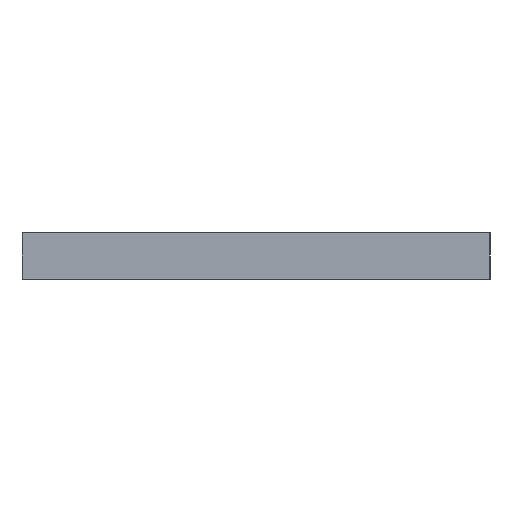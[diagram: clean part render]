
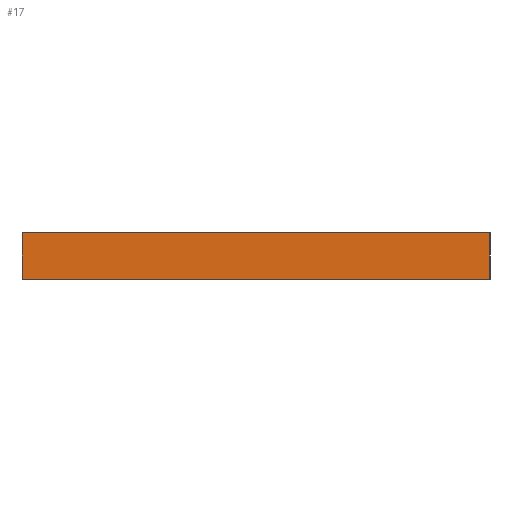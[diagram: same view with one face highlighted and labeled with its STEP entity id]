
A CAD part, left-side view. The second image highlights one B-rep face of the part: STEP entity #17.
In plain terms, the highlighted planar face has unit normal (-1, 0, 0).
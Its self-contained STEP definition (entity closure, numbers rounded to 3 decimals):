
#17 = ADVANCED_FACE('',(#18),#32,.F.);
#18 = FACE_BOUND('',#19,.F.);
#19 = EDGE_LOOP('',(#20,#55,#83,#111));
#20 = ORIENTED_EDGE('',*,*,#21,.F.);
#21 = EDGE_CURVE('',#22,#24,#26,.T.);
#22 = VERTEX_POINT('',#23);
#23 = CARTESIAN_POINT('',(-90.,-60.,36.));
#24 = VERTEX_POINT('',#25);
#25 = CARTESIAN_POINT('',(-90.,-60.,48.));
#26 = SURFACE_CURVE('',#27,(#31,#43),.PCURVE_S1.);
#27 = LINE('',#28,#29);
#28 = CARTESIAN_POINT('',(-90.,-60.,36.));
#29 = VECTOR('',#30,1.);
#30 = DIRECTION('',(0.,0.,1.));
#31 = PCURVE('',#32,#37);
#32 = PLANE('',#33);
#33 = AXIS2_PLACEMENT_3D('',#34,#35,#36);
#34 = CARTESIAN_POINT('',(-90.,-60.,36.));
#35 = DIRECTION('',(1.,0.,0.));
#36 = DIRECTION('',(0.,0.,1.));
#37 = DEFINITIONAL_REPRESENTATION('',(#38),#42);
#38 = LINE('',#39,#40);
#39 = CARTESIAN_POINT('',(0.,0.));
#40 = VECTOR('',#41,1.);
#41 = DIRECTION('',(1.,0.));
#42 = ( GEOMETRIC_REPRESENTATION_CONTEXT(2) 
PARAMETRIC_REPRESENTATION_CONTEXT() REPRESENTATION_CONTEXT('2D SPACE',''
  ) );
#43 = PCURVE('',#44,#49);
#44 = PLANE('',#45);
#45 = AXIS2_PLACEMENT_3D('',#46,#47,#48);
#46 = CARTESIAN_POINT('',(-90.,-60.,36.));
#47 = DIRECTION('',(0.,1.,0.));
#48 = DIRECTION('',(0.,0.,1.));
#49 = DEFINITIONAL_REPRESENTATION('',(#50),#54);
#50 = LINE('',#51,#52);
#51 = CARTESIAN_POINT('',(0.,0.));
#52 = VECTOR('',#53,1.);
#53 = DIRECTION('',(1.,0.));
#54 = ( GEOMETRIC_REPRESENTATION_CONTEXT(2) 
PARAMETRIC_REPRESENTATION_CONTEXT() REPRESENTATION_CONTEXT('2D SPACE',''
  ) );
#55 = ORIENTED_EDGE('',*,*,#56,.T.);
#56 = EDGE_CURVE('',#22,#57,#59,.T.);
#57 = VERTEX_POINT('',#58);
#58 = CARTESIAN_POINT('',(-90.,60.,36.));
#59 = SURFACE_CURVE('',#60,(#64,#71),.PCURVE_S1.);
#60 = LINE('',#61,#62);
#61 = CARTESIAN_POINT('',(-90.,-60.,36.));
#62 = VECTOR('',#63,1.);
#63 = DIRECTION('',(0.,1.,0.));
#64 = PCURVE('',#32,#65);
#65 = DEFINITIONAL_REPRESENTATION('',(#66),#70);
#66 = LINE('',#67,#68);
#67 = CARTESIAN_POINT('',(0.,0.));
#68 = VECTOR('',#69,1.);
#69 = DIRECTION('',(0.,-1.));
#70 = ( GEOMETRIC_REPRESENTATION_CONTEXT(2) 
PARAMETRIC_REPRESENTATION_CONTEXT() REPRESENTATION_CONTEXT('2D SPACE',''
  ) );
#71 = PCURVE('',#72,#77);
#72 = PLANE('',#73);
#73 = AXIS2_PLACEMENT_3D('',#74,#75,#76);
#74 = CARTESIAN_POINT('',(-90.,-60.,36.));
#75 = DIRECTION('',(0.,0.,1.));
#76 = DIRECTION('',(1.,0.,0.));
#77 = DEFINITIONAL_REPRESENTATION('',(#78),#82);
#78 = LINE('',#79,#80);
#79 = CARTESIAN_POINT('',(0.,0.));
#80 = VECTOR('',#81,1.);
#81 = DIRECTION('',(0.,1.));
#82 = ( GEOMETRIC_REPRESENTATION_CONTEXT(2) 
PARAMETRIC_REPRESENTATION_CONTEXT() REPRESENTATION_CONTEXT('2D SPACE',''
  ) );
#83 = ORIENTED_EDGE('',*,*,#84,.T.);
#84 = EDGE_CURVE('',#57,#85,#87,.T.);
#85 = VERTEX_POINT('',#86);
#86 = CARTESIAN_POINT('',(-90.,60.,48.));
#87 = SURFACE_CURVE('',#88,(#92,#99),.PCURVE_S1.);
#88 = LINE('',#89,#90);
#89 = CARTESIAN_POINT('',(-90.,60.,36.));
#90 = VECTOR('',#91,1.);
#91 = DIRECTION('',(0.,0.,1.));
#92 = PCURVE('',#32,#93);
#93 = DEFINITIONAL_REPRESENTATION('',(#94),#98);
#94 = LINE('',#95,#96);
#95 = CARTESIAN_POINT('',(0.,-120.));
#96 = VECTOR('',#97,1.);
#97 = DIRECTION('',(1.,0.));
#98 = ( GEOMETRIC_REPRESENTATION_CONTEXT(2) 
PARAMETRIC_REPRESENTATION_CONTEXT() REPRESENTATION_CONTEXT('2D SPACE',''
  ) );
#99 = PCURVE('',#100,#105);
#100 = PLANE('',#101);
#101 = AXIS2_PLACEMENT_3D('',#102,#103,#104);
#102 = CARTESIAN_POINT('',(-90.,60.,36.));
#103 = DIRECTION('',(0.,1.,0.));
#104 = DIRECTION('',(0.,0.,1.));
#105 = DEFINITIONAL_REPRESENTATION('',(#106),#110);
#106 = LINE('',#107,#108);
#107 = CARTESIAN_POINT('',(0.,0.));
#108 = VECTOR('',#109,1.);
#109 = DIRECTION('',(1.,0.));
#110 = ( GEOMETRIC_REPRESENTATION_CONTEXT(2) 
PARAMETRIC_REPRESENTATION_CONTEXT() REPRESENTATION_CONTEXT('2D SPACE',''
  ) );
#111 = ORIENTED_EDGE('',*,*,#112,.F.);
#112 = EDGE_CURVE('',#24,#85,#113,.T.);
#113 = SURFACE_CURVE('',#114,(#118,#125),.PCURVE_S1.);
#114 = LINE('',#115,#116);
#115 = CARTESIAN_POINT('',(-90.,-60.,48.));
#116 = VECTOR('',#117,1.);
#117 = DIRECTION('',(0.,1.,0.));
#118 = PCURVE('',#32,#119);
#119 = DEFINITIONAL_REPRESENTATION('',(#120),#124);
#120 = LINE('',#121,#122);
#121 = CARTESIAN_POINT('',(12.,0.));
#122 = VECTOR('',#123,1.);
#123 = DIRECTION('',(0.,-1.));
#124 = ( GEOMETRIC_REPRESENTATION_CONTEXT(2) 
PARAMETRIC_REPRESENTATION_CONTEXT() REPRESENTATION_CONTEXT('2D SPACE',''
  ) );
#125 = PCURVE('',#126,#131);
#126 = PLANE('',#127);
#127 = AXIS2_PLACEMENT_3D('',#128,#129,#130);
#128 = CARTESIAN_POINT('',(-90.,-60.,48.));
#129 = DIRECTION('',(0.,0.,1.));
#130 = DIRECTION('',(1.,0.,0.));
#131 = DEFINITIONAL_REPRESENTATION('',(#132),#136);
#132 = LINE('',#133,#134);
#133 = CARTESIAN_POINT('',(0.,0.));
#134 = VECTOR('',#135,1.);
#135 = DIRECTION('',(0.,1.));
#136 = ( GEOMETRIC_REPRESENTATION_CONTEXT(2) 
PARAMETRIC_REPRESENTATION_CONTEXT() REPRESENTATION_CONTEXT('2D SPACE',''
  ) );
